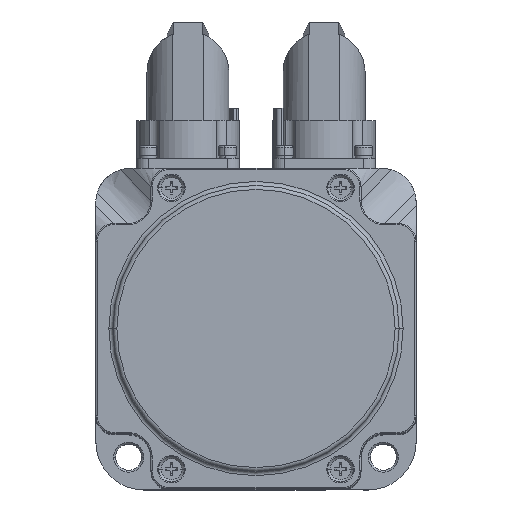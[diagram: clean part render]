
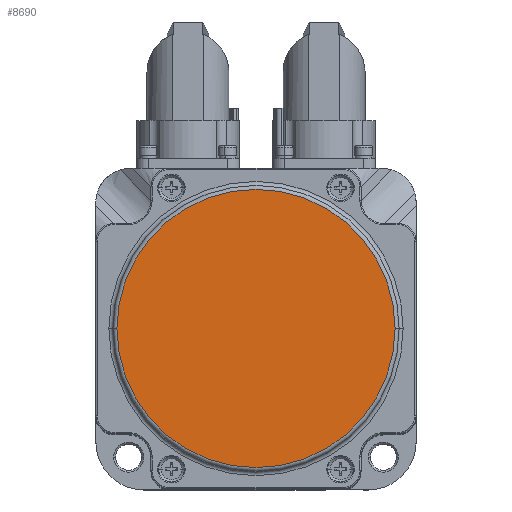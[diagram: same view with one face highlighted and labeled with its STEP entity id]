
A CAD part, top view. The second image highlights one B-rep face of the part: STEP entity #8690.
In plain terms, the highlighted planar face has unit normal (0, 0, 1).
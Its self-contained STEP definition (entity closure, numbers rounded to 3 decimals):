
#8690 = ADVANCED_FACE ( 'NONE', ( #47490 ), #41376, .T. ) ;
#21716 = VERTEX_POINT ( 'NONE', #51664 ) ;
#23859 = EDGE_CURVE ( 'NONE', #21716, #31197, #67431, .T. ) ;
#24069 = CIRCLE ( 'NONE', #24142, 34.75 ) ;
#24142 = AXIS2_PLACEMENT_3D ( 'NONE', #56005, #56006, #56007 ) ;
#27600 = ORIENTED_EDGE ( 'NONE', *, *, #23859, .T. ) ;
#27601 = ORIENTED_EDGE ( 'NONE', *, *, #27845, .T. ) ;
#27845 = EDGE_CURVE ( 'NONE', #31197, #21716, #24069, .T. ) ;
#31197 = VERTEX_POINT ( 'NONE', #65077 ) ;
#40390 = DIRECTION ( 'NONE',  ( 1., 0., 0. ) ) ;
#40433 = CARTESIAN_POINT ( 'NONE',  ( 0., 0., 6.5 ) ) ;
#41376 = PLANE ( 'NONE',  #67403 ) ;
#41491 = DIRECTION ( 'NONE',  ( 0., 0., 1. ) ) ;
#47285 = EDGE_LOOP ( 'NONE', ( #27600, #27601 ) ) ;
#47490 = FACE_OUTER_BOUND ( 'NONE', #47285, .T. ) ;
#51664 = CARTESIAN_POINT ( 'NONE',  ( 34.75, 0., 6.5 ) ) ;
#52341 = CARTESIAN_POINT ( 'NONE',  ( 0., 0., 6.5 ) ) ;
#52343 = DIRECTION ( 'NONE',  ( 0., 0., 1. ) ) ;
#52344 = DIRECTION ( 'NONE',  ( 1., 0., 0. ) ) ;
#56005 = CARTESIAN_POINT ( 'NONE',  ( 0., 0., 6.5 ) ) ;
#56006 = DIRECTION ( 'NONE',  ( 0., 0., 1. ) ) ;
#56007 = DIRECTION ( 'NONE',  ( 1., 0., 0. ) ) ;
#65077 = CARTESIAN_POINT ( 'NONE',  ( -34.75, 0., 6.5 ) ) ;
#67403 = AXIS2_PLACEMENT_3D ( 'NONE', #40433, #41491, #40390 ) ;
#67428 = AXIS2_PLACEMENT_3D ( 'NONE', #52341, #52343, #52344 ) ;
#67431 = CIRCLE ( 'NONE', #67428, 34.75 ) ;
